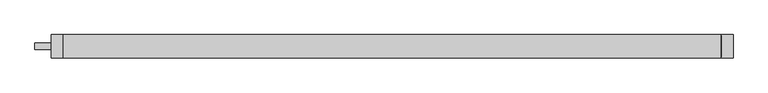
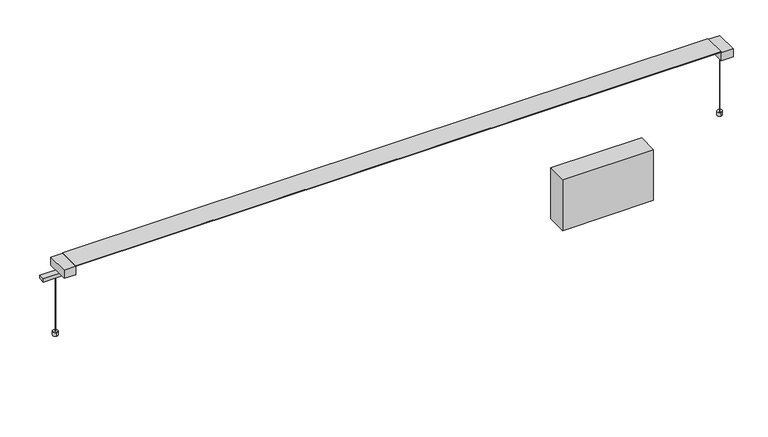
"""IFC4 building model written with IfcOpenShell, lengths in millimetres: light fixture geometry, Fabbian.Pivot F39 (F39 A01A 01,F39 A01A 21,F39 A01A 76,F39 A02A 01,F39 A02A 21,F39 A02A 76) : F39 A01A 01."""

from ifc_helpers import new_model, si_unit, point, frame, frame_2d, origin, origin_with_axes, place, context, project, spatial, polyline, circle_curve, trimmed, segment, composite_curve, outline, extrude, source, transform, mapped, element, save


def light_fixture_16b5204d(model_context):
    return source(origin(), model_context, "Body", "SweptSolid", [
        extrude(outline(composite_curve([segment(trimmed(circle_curve(frame_2d((-815.8132834, 0.0)), 0.4949808), [point((-816.3082642, 0.0))], [point((-815.3183026, 0.0))], False, "CARTESIAN"), True, "CONTINUOUS"), segment(trimmed(circle_curve(frame_2d((-815.8132834, 0.0)), 0.4949808), [point((-815.3183026, 0.0))], [point((-816.3082642, 0.0))], False, "CARTESIAN"), True, "CONTINUOUS")], self_intersect=False)), origin_with_axes(), (0.0, 0.0, 1.0), 151.6242394),
        extrude(outline(polyline([(619.1350388, -24.9666442), (399.1348055, -24.9666442), (399.1348055, 25.0334567), (619.1350388, 25.0334567), (619.1350388, -24.9666442)])), frame((0.0, 0.0, -142.875), z_axis=(0.0, 0.0, 1.0), x_axis=(1.0, 0.0, 0.0)), (0.0, 0.0, 1.0), 130.175),
        extrude(outline(composite_curve([segment(trimmed(circle_curve(frame_2d((794.2560169, 0.0)), 0.4949808), [point((794.7509977, 0.0))], [point((793.7610361, 0.0))], False, "CARTESIAN"), True, "CONTINUOUS"), segment(trimmed(circle_curve(frame_2d((794.2560169, 0.0)), 0.4949808), [point((793.7610361, 0.0))], [point((794.7509977, 0.0))], False, "CARTESIAN"), True, "CONTINUOUS")], self_intersect=False)), origin_with_axes(), (0.0, 0.0, 1.0), 159.6242394),
        extrude(outline(polyline([(0.4107254, 159.893756), (0.4107254, 160.681594), (-0.4107259, 160.681594), (-0.4107259, 159.893756), (-25.5497693, 181.0787506), (26.3879175, 181.0787506), (0.4107254, 159.893756)])), frame((-782.3132834, 0.0, 0.0), z_axis=(1.0, 0.0, 0.0), x_axis=(0.0, 1.0, 0.0)), (0.0, 0.0, 1.0), 1564.6265668),
        extrude(outline(polyline([(-782.3132834, -27.7285043), (-810.5140956, -27.7285043), (-810.5140956, 27.7953166), (-782.3132834, 27.7953166), (-782.3132834, -27.7285043)])), frame((0.0, 0.0, 159.6242394), z_axis=(0.0, 0.0, 1.0), x_axis=(1.0, 0.0, 0.0)), (0.0, 0.0, 1.0), 20.8761838),
        extrude(outline(polyline([(782.3132834, -27.7285042), (782.3132834, 27.7953167), (810.5140956, 27.7953167), (810.5140956, -27.7285042), (782.3132834, -27.7285042)])), frame((0.0, 0.0, 159.6242394), z_axis=(0.0, 0.0, 1.0), x_axis=(1.0, 0.0, 0.0)), (0.0, 0.0, 1.0), 20.8761838),
        extrude(outline(polyline([(0.0, 0.8214513), (1564.6265668, 0.8214513), (1564.6265668, 0.0), (0.0, 0.0), (0.0, 0.8214513)])), frame((-782.3132834, -0.4107259, 159.893756), z_axis=(-5.7155291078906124e-11, 0.0, 1.0), x_axis=(1.0, 0.0, 5.7155291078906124e-11)), (0.0, 0.0, 1.0), 0.787838),
        extrude(outline(polyline([(781.7488887, 27.7780006), (781.7488887, -27.7779986), (-782.3132834, -27.7779986), (-782.3132834, 27.7780006), (781.7488887, 27.7780006)])), frame((0.0, 0.0, 181.0787506), z_axis=(0.0, 0.0, 1.0), x_axis=(1.0, 0.0, 0.0)), (0.0, 0.0, 1.0), 1.1514277),
        extrude(outline(composite_curve([segment(trimmed(circle_curve(frame_2d((-815.8133121, 0.4556113)), 5.8155806), [point((-816.6410047, -5.3007681))], [point((-814.9856195, 6.2119906))], False, "CARTESIAN"), True, "CONTINUOUS"), segment(trimmed(circle_curve(frame_2d((-815.8133121, 0.4556113)), 5.8155806), [point((-814.9856195, 6.2119906))], [point((-816.6410047, -5.3007681))], False, "CARTESIAN"), True, "CONTINUOUS")], self_intersect=False)), origin_with_axes(), (0.0, 0.0, 1.0), 9.6582083),
        extrude(outline(composite_curve([segment(trimmed(circle_curve(frame_2d((794.2560169, 0.4556113)), 5.8155806), [point((795.0837096, -5.3007681))], [point((793.4283243, 6.2119906))], False, "CARTESIAN"), True, "CONTINUOUS"), segment(trimmed(circle_curve(frame_2d((794.2560169, 0.4556113)), 5.8155806), [point((793.4283243, 6.2119906))], [point((795.0837096, -5.3007681))], False, "CARTESIAN"), True, "CONTINUOUS")], self_intersect=False)), origin_with_axes(), (0.0, 0.0, 1.0), 9.6582083),
        extrude(outline(polyline([(-782.3132834, 7.5334062), (-782.3132834, -7.4665938), (-849.3132834, -7.4665938), (-849.3132834, 7.5334062), (-782.3132834, 7.5334062)])), frame((0.0, 0.0, 151.6242394), z_axis=(0.0, 0.0, 1.0), x_axis=(1.0, 0.0, 0.0)), (0.0, 0.0, 1.0), 8.0),
    ])


if __name__ == "__main__":
    model = new_model("IFC4")
    model_context = context("Model", 3, world=origin())
    ifc_project = project(units=[si_unit("LENGTHUNIT", "METRE", prefix="MILLI")], contexts=[model_context])
    site = spatial("IfcSite", under=ifc_project)
    building = spatial("IfcBuilding", under=site)
    placement = place(None, origin())
    light_fixture_shape = light_fixture_16b5204d(model_context)
    element("IfcLightFixture", 1, ObjectType="Fabbian.Pivot F39 (F39 A01A 01,F39 A01A 21,F39 A01A 76,F39 A02A 01,F39 A02A 21,F39 A02A 76) : F39 A01A 01", at=placement, inside=building, context=model_context, shape_type="MappedRepresentation", body=[
        mapped(light_fixture_shape, transform((0.0, 0.0, 0.0), x_axis=(1.0, 0.0, 0.0), y_axis=(0.0, 1.0, 0.0), z_axis=(0.0, 0.0, 1.0))),
    ])
    save(model, "model.ifc")
